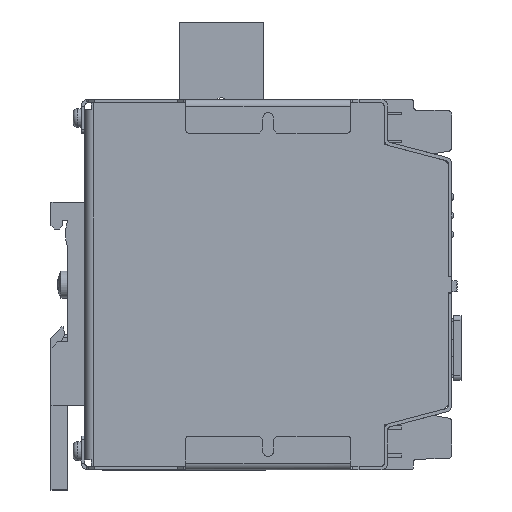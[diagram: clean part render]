
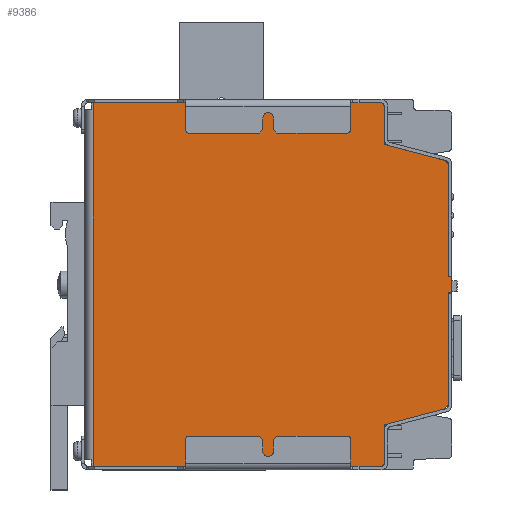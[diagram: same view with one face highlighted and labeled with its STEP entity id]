
A CAD part, left-side view. The second image highlights one B-rep face of the part: STEP entity #9386.
In plain terms, the highlighted planar face has unit normal (-1, 0, 0).
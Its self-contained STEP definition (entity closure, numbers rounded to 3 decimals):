
#9386 = ADVANCED_FACE( '', ( #21038 ), #21039, .T. );
#21038 = FACE_OUTER_BOUND( '', #36103, .T. );
#21039 = PLANE( '', #36104 );
#36103 = EDGE_LOOP( '', ( #58948, #58949, #58950, #58951, #58952, #58953, #58954, #58955, #58956, #58957, #58958, #58959, #58960, #58961, #58962, #58963 ) );
#36104 = AXIS2_PLACEMENT_3D( '', #58964, #58965, #58966 );
#58948 = ORIENTED_EDGE( '', *, *, #72393, .T. );
#58949 = ORIENTED_EDGE( '', *, *, #74687, .T. );
#58950 = ORIENTED_EDGE( '', *, *, #72772, .T. );
#58951 = ORIENTED_EDGE( '', *, *, #74618, .T. );
#58952 = ORIENTED_EDGE( '', *, *, #74688, .T. );
#58953 = ORIENTED_EDGE( '', *, *, #74080, .T. );
#58954 = ORIENTED_EDGE( '', *, *, #74558, .F. );
#58955 = ORIENTED_EDGE( '', *, *, #73461, .F. );
#58956 = ORIENTED_EDGE( '', *, *, #72810, .T. );
#58957 = ORIENTED_EDGE( '', *, *, #74689, .T. );
#58958 = ORIENTED_EDGE( '', *, *, #70580, .T. );
#58959 = ORIENTED_EDGE( '', *, *, #74690, .T. );
#58960 = ORIENTED_EDGE( '', *, *, #73568, .T. );
#58961 = ORIENTED_EDGE( '', *, *, #74691, .T. );
#58962 = ORIENTED_EDGE( '', *, *, #71929, .T. );
#58963 = ORIENTED_EDGE( '', *, *, #74692, .T. );
#58964 = CARTESIAN_POINT( '', ( -27., 54.5, -54. ) );
#58965 = DIRECTION( '', ( -1., 0., 0. ) );
#58966 = DIRECTION( '', ( 0., 0., 1. ) );
#70580 = EDGE_CURVE( '', #79956, #79954, #79957, .T. );
#71929 = EDGE_CURVE( '', #82145, #82143, #82146, .T. );
#72393 = EDGE_CURVE( '', #82836, #82834, #82837, .T. );
#72772 = EDGE_CURVE( '', #83364, #83362, #83365, .T. );
#72810 = EDGE_CURVE( '', #83413, #83411, #83414, .T. );
#73461 = EDGE_CURVE( '', #83413, #84276, #84277, .T. );
#73568 = EDGE_CURVE( '', #84416, #84414, #84417, .T. );
#74080 = EDGE_CURVE( '', #85112, #85110, #85113, .T. );
#74558 = EDGE_CURVE( '', #84276, #85110, #85759, .T. );
#74618 = EDGE_CURVE( '', #83362, #85827, #85829, .T. );
#74687 = EDGE_CURVE( '', #82834, #83364, #85915, .T. );
#74688 = EDGE_CURVE( '', #85827, #85112, #85916, .T. );
#74689 = EDGE_CURVE( '', #83411, #79956, #85917, .T. );
#74690 = EDGE_CURVE( '', #79954, #84416, #85918, .T. );
#74691 = EDGE_CURVE( '', #84414, #82145, #85919, .T. );
#74692 = EDGE_CURVE( '', #82143, #82836, #85920, .T. );
#79954 = VERTEX_POINT( '', #92965 );
#79956 = VERTEX_POINT( '', #92968 );
#79957 = LINE( '', #92969, #92970 );
#82143 = VERTEX_POINT( '', #96308 );
#82145 = VERTEX_POINT( '', #96311 );
#82146 = LINE( '', #96312, #96313 );
#82834 = VERTEX_POINT( '', #97326 );
#82836 = VERTEX_POINT( '', #97329 );
#82837 = LINE( '', #97330, #97331 );
#83362 = VERTEX_POINT( '', #98277 );
#83364 = VERTEX_POINT( '', #98280 );
#83365 = LINE( '', #98281, #98282 );
#83411 = VERTEX_POINT( '', #98349 );
#83413 = VERTEX_POINT( '', #98352 );
#83414 = LINE( '', #98353, #98354 );
#84276 = VERTEX_POINT( '', #99609 );
#84277 = LINE( '', #99610, #99611 );
#84414 = VERTEX_POINT( '', #99823 );
#84416 = VERTEX_POINT( '', #99826 );
#84417 = LINE( '', #99827, #99828 );
#85110 = VERTEX_POINT( '', #100854 );
#85112 = VERTEX_POINT( '', #100857 );
#85113 = LINE( '', #100858, #100859 );
#85759 = LINE( '', #101965, #101966 );
#85827 = VERTEX_POINT( '', #102060 );
#85829 = LINE( '', #102063, #102064 );
#85915 = LINE( '', #102185, #102186 );
#85916 = LINE( '', #102187, #102188 );
#85917 = LINE( '', #102189, #102190 );
#85918 = LINE( '', #102191, #102192 );
#85919 = LINE( '', #102193, #102194 );
#85920 = LINE( '', #102195, #102196 );
#92965 = CARTESIAN_POINT( '', ( -27., -34.5, -41.64 ) );
#92968 = CARTESIAN_POINT( '', ( -27., -34.5, -53. ) );
#92969 = CARTESIAN_POINT( '', ( -27., -34.5, -54. ) );
#92970 = VECTOR( '', #106857, 1000. );
#96308 = CARTESIAN_POINT( '', ( -27., -54.5, -2.4 ) );
#96311 = CARTESIAN_POINT( '', ( -27., -53.5, -2.4 ) );
#96312 = CARTESIAN_POINT( '', ( -27., 54.5, -2.4 ) );
#96313 = VECTOR( '', #108092, 1000. );
#97326 = CARTESIAN_POINT( '', ( -27., -53.5, 2.4 ) );
#97329 = CARTESIAN_POINT( '', ( -27., -54.5, 2.4 ) );
#97330 = CARTESIAN_POINT( '', ( -27., 54.5, 2.4 ) );
#97331 = VECTOR( '', #108498, 1000. );
#98277 = CARTESIAN_POINT( '', ( -27., -52.536, 36.908 ) );
#98280 = CARTESIAN_POINT( '', ( -27., -53.5, 35.64 ) );
#98281 = CARTESIAN_POINT( '', ( -27., -57.138, 30.854 ) );
#98282 = VECTOR( '', #108798, 1000. );
#98349 = CARTESIAN_POINT( '', ( -27., -33.5, -54. ) );
#98352 = CARTESIAN_POINT( '', ( -27., 52., -54. ) );
#98353 = CARTESIAN_POINT( '', ( -27., 54.5, -54. ) );
#98354 = VECTOR( '', #108824, 1000. );
#99609 = CARTESIAN_POINT( '', ( -27., 52., 54. ) );
#99610 = CARTESIAN_POINT( '', ( -27., 52., -54. ) );
#99611 = VECTOR( '', #109302, 1000. );
#99823 = CARTESIAN_POINT( '', ( -27., -53.5, -35.64 ) );
#99826 = CARTESIAN_POINT( '', ( -27., -52.536, -36.908 ) );
#99827 = CARTESIAN_POINT( '', ( -27., -5.108, -99.307 ) );
#99828 = VECTOR( '', #109384, 1000. );
#100854 = CARTESIAN_POINT( '', ( -27., -33.5, 54. ) );
#100857 = CARTESIAN_POINT( '', ( -27., -34.5, 53. ) );
#100858 = CARTESIAN_POINT( '', ( -27., -43.5, 44. ) );
#100859 = VECTOR( '', #109773, 1000. );
#101965 = CARTESIAN_POINT( '', ( -27., 54.5, 54. ) );
#101966 = VECTOR( '', #110161, 1000. );
#102060 = CARTESIAN_POINT( '', ( -27., -34.5, 41.64 ) );
#102063 = CARTESIAN_POINT( '', ( -27., 25.29, 57.327 ) );
#102064 = VECTOR( '', #110204, 1000. );
#102185 = CARTESIAN_POINT( '', ( -27., -53.5, -54. ) );
#102186 = VECTOR( '', #110260, 1000. );
#102187 = CARTESIAN_POINT( '', ( -27., -34.5, -54. ) );
#102188 = VECTOR( '', #110261, 1000. );
#102189 = CARTESIAN_POINT( '', ( -27., 10.5, -98. ) );
#102190 = VECTOR( '', #110262, 1000. );
#102191 = CARTESIAN_POINT( '', ( -27., 51.802, -64.284 ) );
#102192 = VECTOR( '', #110263, 1000. );
#102193 = CARTESIAN_POINT( '', ( -27., -53.5, -54. ) );
#102194 = VECTOR( '', #110264, 1000. );
#102195 = CARTESIAN_POINT( '', ( -27., -54.5, -54. ) );
#102196 = VECTOR( '', #110265, 1000. );
#106857 = DIRECTION( '', ( 0., 0., 1. ) );
#108092 = DIRECTION( '', ( 0., -1., 0. ) );
#108498 = DIRECTION( '', ( 0., 1., 0. ) );
#108798 = DIRECTION( '', ( 0., 0.605, 0.796 ) );
#108824 = DIRECTION( '', ( 0., -1., 0. ) );
#109302 = DIRECTION( '', ( 0., 0., 1. ) );
#109384 = DIRECTION( '', ( 0., -0.605, 0.796 ) );
#109773 = DIRECTION( '', ( 0., 0.707, 0.707 ) );
#110161 = DIRECTION( '', ( 0., -1., 0. ) );
#110204 = DIRECTION( '', ( 0., 0.967, 0.254 ) );
#110260 = DIRECTION( '', ( 0., 0., 1. ) );
#110261 = DIRECTION( '', ( 0., 0., 1. ) );
#110262 = DIRECTION( '', ( 0., -0.707, 0.707 ) );
#110263 = DIRECTION( '', ( 0., -0.967, 0.254 ) );
#110264 = DIRECTION( '', ( 0., 0., 1. ) );
#110265 = DIRECTION( '', ( 0., 0., 1. ) );
